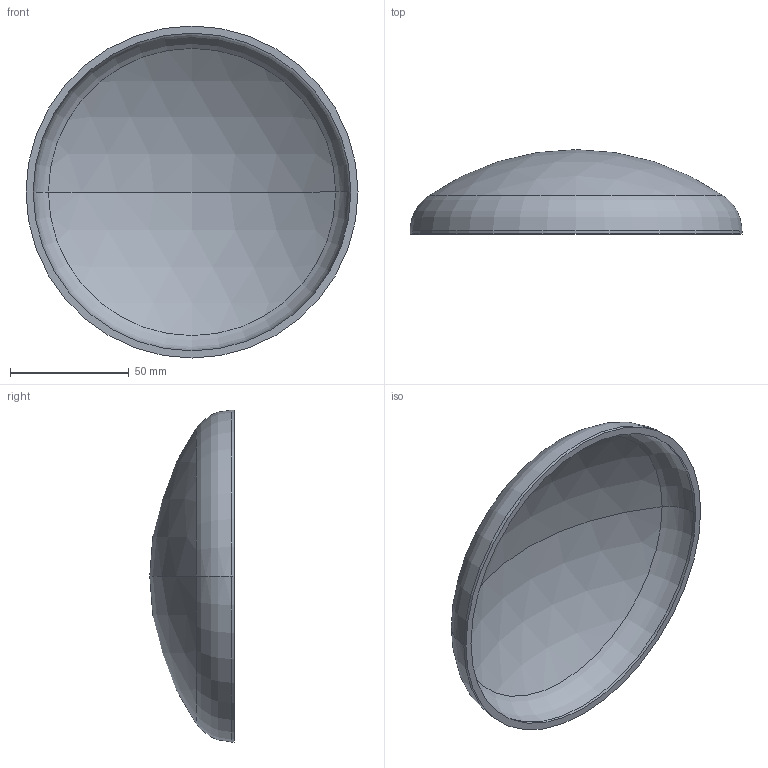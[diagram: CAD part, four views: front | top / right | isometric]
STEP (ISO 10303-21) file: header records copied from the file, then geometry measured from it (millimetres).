
FILE_DESCRIPTION (( 'STEP AP203' ), '1' );
FILE_NAME ('3D_R365_139.7x3_173371186.STEP', '2024-07-16T06:41:02', ( '' ), ( '' ), 'SwSTEP 2.0', 'SolidWorks 2024', '' );
FILE_SCHEMA (( 'CONFIG_CONTROL_DESIGN' ));
Length unit declared in the file: millimetre
Products named in the file (1): 3D_R365_139.7x3_173371186
Bounding box: 139.7 x 35.5 x 139.7 mm (x, y, z)
Volume: 60214.9 mm3; surface area: 41450.5 mm2
Topology: 1 solids, 1 shells, 13 faces, 24 edges, 14 vertices
Faces by surface type: sphere 4, torus 4, cylinder 4, plane 1
Entity records: 407 total; most frequent: DIRECTION 72, CARTESIAN_POINT 52, ORIENTED_EDGE 48, AXIS2_PLACEMENT_3D 34, EDGE_CURVE 24, CIRCLE 20, VERTEX_POINT 14, EDGE_LOOP 14
